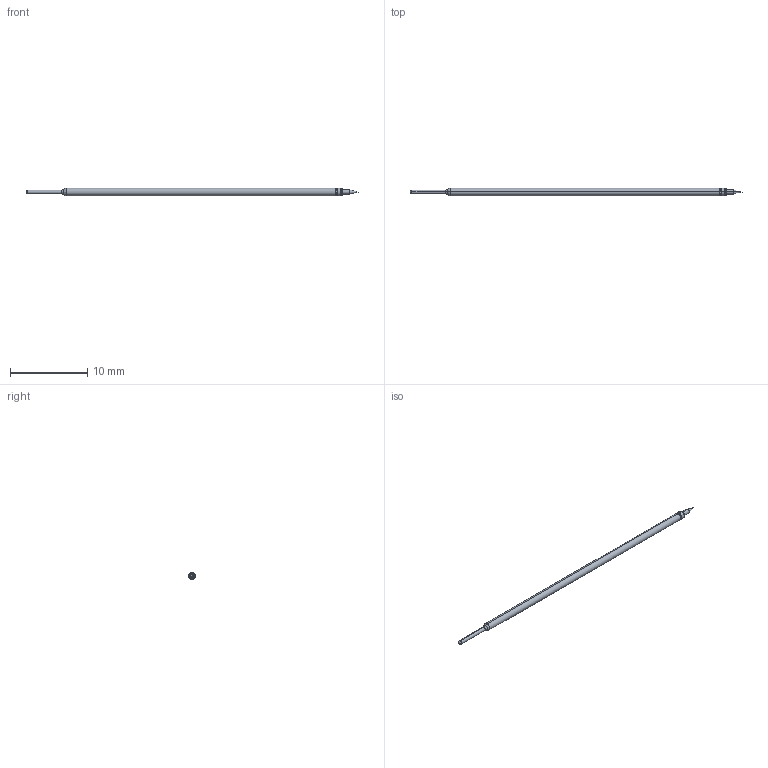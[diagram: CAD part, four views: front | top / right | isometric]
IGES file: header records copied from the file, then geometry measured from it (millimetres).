
Start section: SolidWorks IGES file using analytic representation for surfaces
Global section: file name: C:\Documents and Settings\mrumschlag\Desktop\changes\new\test\B FULL.IGS; native system: SolidWorks 2011; preprocessor: SolidWorks 2011; author: mrumschlag; date: 110630.163411; units: inch
Bounding box: 42.93 x 0.97 x 0.97 mm (x, y, z)
Surface area: 120.2 mm2 (no closed solid volume)
Topology: 0 solids, 0 shells, 25 faces, 132 edges, 128 vertices
Faces by surface type: revolution 16, bspline 9
